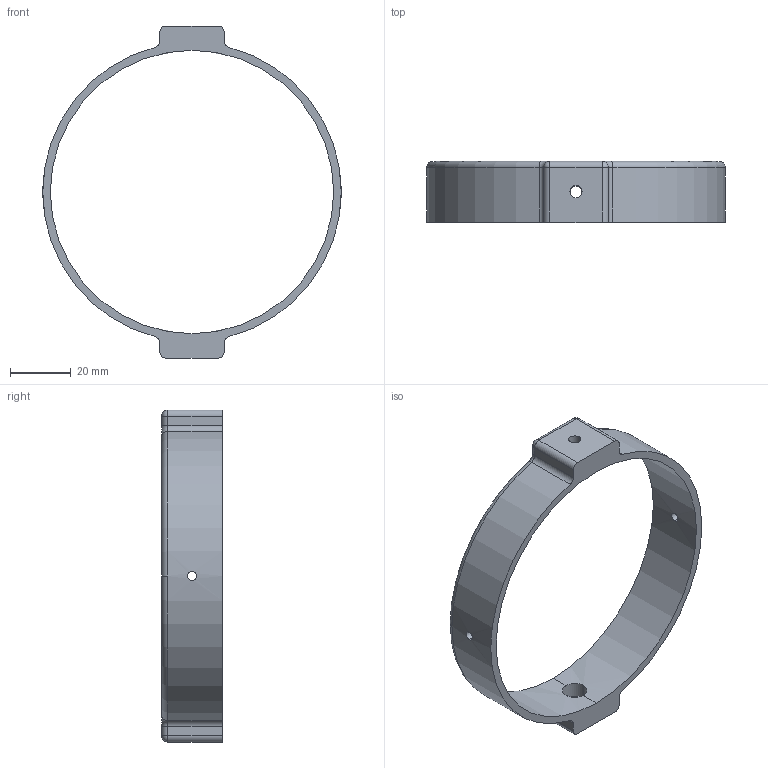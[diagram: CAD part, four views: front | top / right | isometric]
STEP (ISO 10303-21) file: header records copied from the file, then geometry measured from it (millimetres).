
FILE_DESCRIPTION (( 'STEP AP214' ), '1' );
FILE_NAME ('Anel_externo.STEP', '2026-11-19T17:23:04', ( '' ), ( '' ), 'SwSTEP 2.0', 'SolidWorks 2026', '' );
FILE_SCHEMA (( 'AUTOMOTIVE_DESIGN' ));
Length unit declared in the file: millimetre
Products named in the file (1): Anel_externo
Bounding box: 98 x 20 x 109 mm (x, y, z)
Volume: 19078.7 mm3; surface area: 14433.1 mm2
Topology: 1 solids, 1 shells, 52 faces, 134 edges, 80 vertices
Faces by surface type: cylinder 30, plane 10, torus 8, sphere 4
Entity records: 1905 total; most frequent: CARTESIAN_POINT 599, DIRECTION 284, ORIENTED_EDGE 260, EDGE_CURVE 130, AXIS2_PLACEMENT_3D 117, VERTEX_POINT 80, CIRCLE 64, EDGE_LOOP 62
